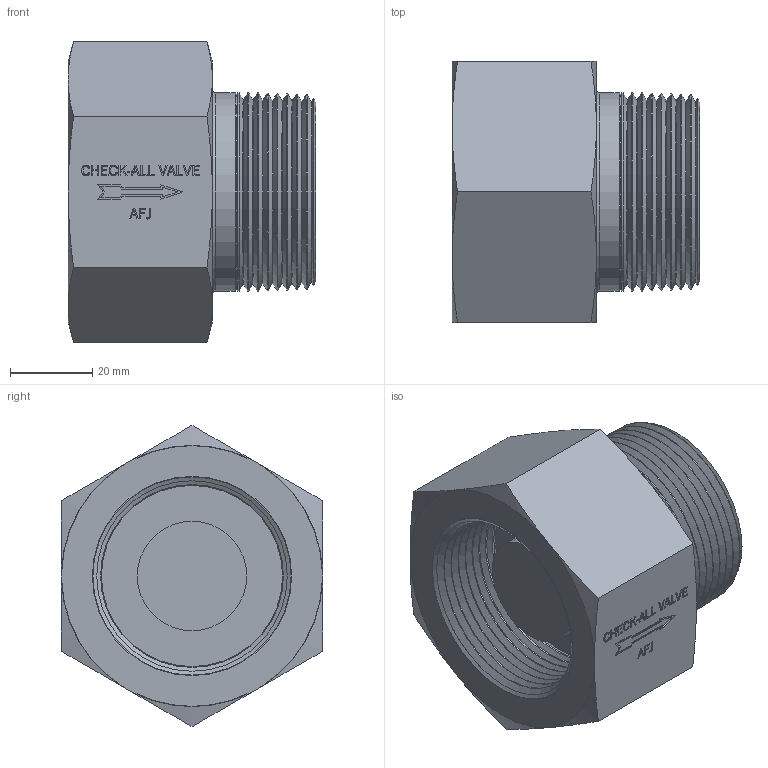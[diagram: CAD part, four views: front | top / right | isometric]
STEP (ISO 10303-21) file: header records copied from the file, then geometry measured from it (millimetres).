
FILE_DESCRIPTION(/* description */ ('Unknown'),/* implementation_level */ '2;1');
FILE_NAME(/* name */ 'AFJXXOR.500XX-WEB',/* time_stamp */ '2022-10-03T11:47:59-05:00',/* author */ ('Unknown'),/* organization */ ('Unknown'),/* preprocessor_version */ 'ST-DEVELOPER v18.102',/* originating_system */ 'Solid Edge',/* authorisation */ 'Unknown');
FILE_SCHEMA (('AUTOMOTIVE_DESIGN {1 0 10303 214 3 1 1}'));
Length unit declared in the file: inch
Products named in the file (1): AFJXXOR.500XX-WEB
Bounding box: 60.25 x 63.5 x 73.32 mm (x, y, z)
Volume: 130767.8 mm3; surface area: 26320.4 mm2
Topology: 1 solids, 2 shells, 327 faces, 802 edges, 504 vertices
Faces by surface type: plane 192, cone 77, cylinder 35, torus 17, bspline 6
Full cylindrical faces by diameter (mm): 22.606 x1, 26.67 x1, 37.719 x1, 44.071 x5, 48.26 x3
Entity records: 11404 total; most frequent: CARTESIAN_POINT 2272, ORIENTED_EDGE 1402, DIRECTION 1214, EDGE_CURVE 701, VERTEX_POINT 484, EDGE_LOOP 435, FACE_BOUND 435, AXIS2_PLACEMENT_3D 432
